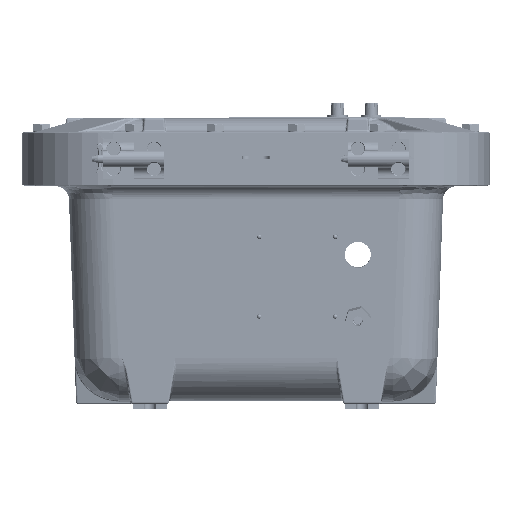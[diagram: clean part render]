
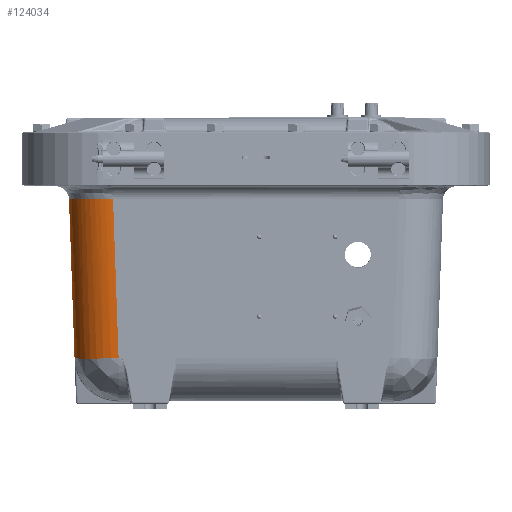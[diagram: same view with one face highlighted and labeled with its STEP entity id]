
A CAD part, left-side view. The second image highlights one B-rep face of the part: STEP entity #124034.
In plain terms, the highlighted cylindrical face has radius 41.275 mm (diameter 82.55 mm), a partial arc.
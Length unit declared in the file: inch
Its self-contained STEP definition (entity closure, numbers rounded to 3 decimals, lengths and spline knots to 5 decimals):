
#7795 = CARTESIAN_POINT ( 'NONE',  ( -4.84969, -1.73176, -2.97994 ) ) ;
#12547 = EDGE_CURVE ( 'NONE', #220034, #256465, #108039, .T. ) ;
#18220 = LINE ( 'NONE', #105294, #285600 ) ;
#18399 = VECTOR ( 'NONE', #129072, 39.37008 ) ;
#20142 = EDGE_CURVE ( 'NONE', #256465, #194059, #18220, .T. ) ;
#21609 = ORIENTED_EDGE ( 'NONE', *, *, #275448, .F. ) ;
#29699 = CARTESIAN_POINT ( 'NONE',  ( -6.02607, -3.56034, -8.83796 ) ) ;
#39925 = DIRECTION ( 'NONE',  ( -0.999, 0., -0.035 ) ) ;
#52064 = DIRECTION ( 'NONE',  ( 0.035, -0.035, -0.999 ) ) ;
#72927 = DIRECTION ( 'NONE',  ( -0.035, 0.035, 0.999 ) ) ;
#80793 = EDGE_CURVE ( 'NONE', #220034, #349563, #371847, .T. ) ;
#105294 = CARTESIAN_POINT ( 'NONE',  ( -6.2434, -3.34301, -2.61447 ) ) ;
#106315 = ORIENTED_EDGE ( 'NONE', *, *, #12547, .T. ) ;
#108039 = CIRCLE ( 'NONE', #243855, 1.625 ) ;
#110197 = EDGE_LOOP ( 'NONE', ( #106315, #172883, #21609, #307306 ) ) ;
#124034 = ADVANCED_FACE ( 'NONE', ( #297028 ), #143205, .T. ) ;
#128828 = CARTESIAN_POINT ( 'NONE',  ( -4.60654, -1.73185, -2.98255 ) ) ;
#129072 = DIRECTION ( 'NONE',  ( -0.035, 0.035, 0.999 ) ) ;
#131301 = CARTESIAN_POINT ( 'NONE',  ( -6.20336, -2.99115, -2.97894 ) ) ;
#133284 = CARTESIAN_POINT ( 'NONE',  ( -6.23055, -3.35586, -2.98255 ) ) ;
#143205 = CYLINDRICAL_SURFACE ( 'NONE', #254009, 1.625 ) ;
#151137 = DIRECTION ( 'NONE',  ( -0.999, 0., -0.035 ) ) ;
#155904 = CARTESIAN_POINT ( 'NONE',  ( -6.23055, -3.35586, -2.98255 ) ) ;
#167344 = CARTESIAN_POINT ( 'NONE',  ( -4.40206, -3.56034, -8.78125 ) ) ;
#167600 = CARTESIAN_POINT ( 'NONE',  ( -6.23059, -3.23429, -2.98125 ) ) ;
#170252 = B_SPLINE_CURVE_WITH_KNOTS ( 'NONE', 3,
 ( #193941, #7795, #197908, #220358, #351811, #131301, #167600, #133284 ),
 .UNSPECIFIED., .F., .F.,
 ( 4, 1, 1, 1, 1, 4 ),
 ( 0., 0.28571, 0.57143, 0.71429, 0.85714, 1. ),
 .UNSPECIFIED. ) ;
#172883 = ORIENTED_EDGE ( 'NONE', *, *, #20142, .T. ) ;
#193941 = CARTESIAN_POINT ( 'NONE',  ( -4.60654, -1.73185, -2.98255 ) ) ;
#194059 = VERTEX_POINT ( 'NONE', #155904 ) ;
#197908 = CARTESIAN_POINT ( 'NONE',  ( -5.33575, -1.84245, -2.97592 ) ) ;
#215080 = CARTESIAN_POINT ( 'NONE',  ( -4.40206, -1.93633, -8.83796 ) ) ;
#220034 = VERTEX_POINT ( 'NONE', #215080 ) ;
#220358 = CARTESIAN_POINT ( 'NONE',  ( -5.82251, -2.23068, -2.97487 ) ) ;
#240279 = CARTESIAN_POINT ( 'NONE',  ( -4.61939, -3.34301, -2.55776 ) ) ;
#243855 = AXIS2_PLACEMENT_3D ( 'NONE', #167344, #349580, #39925 ) ;
#254009 = AXIS2_PLACEMENT_3D ( 'NONE', #240279, #52064, #151137 ) ;
#256465 = VERTEX_POINT ( 'NONE', #29699 ) ;
#275448 = EDGE_CURVE ( 'NONE', #349563, #194059, #170252, .T. ) ;
#282900 = CARTESIAN_POINT ( 'NONE',  ( -4.40206, -1.93633, -8.83796 ) ) ;
#285600 = VECTOR ( 'NONE', #72927, 39.37008 ) ;
#297028 = FACE_OUTER_BOUND ( 'NONE', #110197, .T. ) ;
#307306 = ORIENTED_EDGE ( 'NONE', *, *, #80793, .F. ) ;
#349563 = VERTEX_POINT ( 'NONE', #128828 ) ;
#349580 = DIRECTION ( 'NONE',  ( -0.035, 0.035, 0.999 ) ) ;
#351811 = CARTESIAN_POINT ( 'NONE',  ( -6.08227, -2.64497, -2.97652 ) ) ;
#371847 = LINE ( 'NONE', #282900, #18399 ) ;
